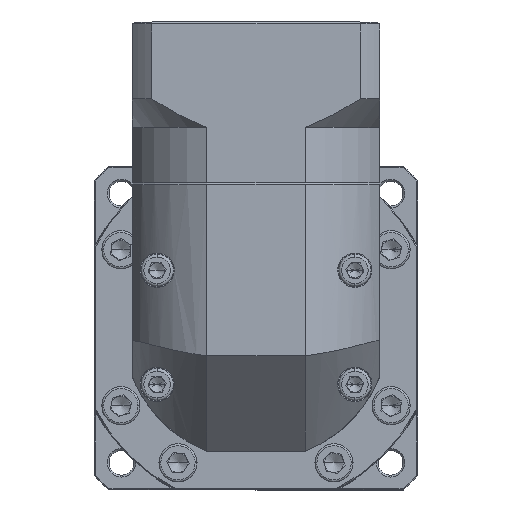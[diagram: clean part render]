
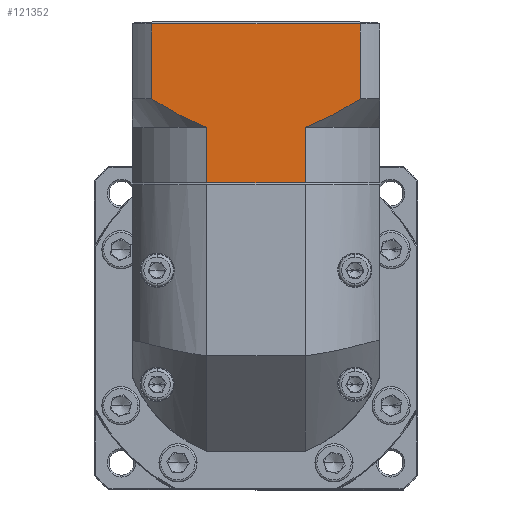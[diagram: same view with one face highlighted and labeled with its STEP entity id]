
A CAD part, top view. The second image highlights one B-rep face of the part: STEP entity #121352.
In plain terms, the highlighted planar face has unit normal (0, 0, 1).
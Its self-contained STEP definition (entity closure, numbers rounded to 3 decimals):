
#3983 = CARTESIAN_POINT ( 'NONE',  ( -115.004, 65.618, 56.544 ) ) ;
#5462 = LINE ( 'NONE', #15829, #87578 ) ;
#9438 = ORIENTED_EDGE ( 'NONE', *, *, #92922, .F. ) ;
#11928 = EDGE_CURVE ( 'NONE', #110308, #104652, #26504, .T. ) ;
#13367 = LINE ( 'NONE', #48152, #16506 ) ;
#13675 = DIRECTION ( 'NONE',  ( 0., 1., 0. ) ) ;
#15829 = CARTESIAN_POINT ( 'NONE',  ( -74.628, 58.118, 56.544 ) ) ;
#16354 = VECTOR ( 'NONE', #51262, 1000. ) ;
#16473 = VERTEX_POINT ( 'NONE', #113296 ) ;
#16506 = VECTOR ( 'NONE', #58943, 1000. ) ;
#17549 = EDGE_CURVE ( 'NONE', #57543, #120053, #13367, .T. ) ;
#18166 = CARTESIAN_POINT ( 'NONE',  ( -115.004, 65.618, 56.544 ) ) ;
#18597 = CARTESIAN_POINT ( 'NONE',  ( -68.395, 60.864, 56.544 ) ) ;
#19486 = CARTESIAN_POINT ( 'NONE',  ( -62.5, 64.156, 56.544 ) ) ;
#23026 = CARTESIAN_POINT ( 'NONE',  ( -100.609, 43.618, 56.544 ) ) ;
#26504 = LINE ( 'NONE', #112566, #71554 ) ;
#28233 = VERTEX_POINT ( 'NONE', #49145 ) ;
#28511 = CARTESIAN_POINT ( 'NONE',  ( -105.598, 60.204, 56.544 ) ) ;
#29421 = CARTESIAN_POINT ( 'NONE',  ( -74.628, 58.118, 56.544 ) ) ;
#31545 = DIRECTION ( 'NONE',  ( 0., 0., -1. ) ) ;
#33670 = VECTOR ( 'NONE', #47659, 1000. ) ;
#33989 = EDGE_CURVE ( 'NONE', #110308, #41602, #100042, .T. ) ;
#36707 = FACE_OUTER_BOUND ( 'NONE', #108462, .T. ) ;
#36850 = DIRECTION ( 'NONE',  ( 0., -1., 0. ) ) ;
#37328 = CARTESIAN_POINT ( 'NONE',  ( -120.118, 85.318, 56.544 ) ) ;
#37817 = EDGE_CURVE ( 'NONE', #69828, #16473, #56529, .T. ) ;
#39191 = CARTESIAN_POINT ( 'NONE',  ( -72.085, 59.134, 56.544 ) ) ;
#39608 = CARTESIAN_POINT ( 'NONE',  ( -112.715, 64.169, 56.544 ) ) ;
#41090 = ORIENTED_EDGE ( 'NONE', *, *, #84721, .T. ) ;
#41602 = VERTEX_POINT ( 'NONE', #110666 ) ;
#41842 = LINE ( 'NONE', #129652, #109496 ) ;
#46894 = DIRECTION ( 'NONE',  ( 0., -1., 0. ) ) ;
#47659 = DIRECTION ( 'NONE',  ( -1., 0., 0. ) ) ;
#48152 = CARTESIAN_POINT ( 'NONE',  ( -115.004, 58.118, 56.544 ) ) ;
#48453 = AXIS2_PLACEMENT_3D ( 'NONE', #92739, #31545, #91871 ) ;
#49145 = CARTESIAN_POINT ( 'NONE',  ( -60.232, 85.318, 56.544 ) ) ;
#51262 = DIRECTION ( 'NONE',  ( 1., 0., 0. ) ) ;
#52200 = PLANE ( 'NONE',  #48453 ) ;
#56529 = B_SPLINE_CURVE_WITH_KNOTS ( 'NONE', 3,
 ( #29421, #80241, #69461, #39191, #70794, #101323, #18597, #121482, #19486, #109841 ),
 .UNSPECIFIED., .F., .F.,
 ( 4, 2, 2, 2, 4 ),
 ( 0.101, 0.103, 0.105, 0.109, 0.117 ),
 .UNSPECIFIED. ) ;
#57543 = VERTEX_POINT ( 'NONE', #3983 ) ;
#58943 = DIRECTION ( 'NONE',  ( 0., 1., 0. ) ) ;
#59922 = CARTESIAN_POINT ( 'NONE',  ( -100.609, 58.118, 56.544 ) ) ;
#60797 = ORIENTED_EDGE ( 'NONE', *, *, #93405, .T. ) ;
#60986 = LINE ( 'NONE', #37328, #33670 ) ;
#61630 = CARTESIAN_POINT ( 'NONE',  ( -120.118, 43.618, 56.544 ) ) ;
#63273 = ORIENTED_EDGE ( 'NONE', *, *, #17549, .F. ) ;
#67987 = ORIENTED_EDGE ( 'NONE', *, *, #11928, .F. ) ;
#69461 = CARTESIAN_POINT ( 'NONE',  ( -73.347, 58.609, 56.544 ) ) ;
#69828 = VERTEX_POINT ( 'NONE', #92888 ) ;
#70794 = CARTESIAN_POINT ( 'NONE',  ( -71.461, 59.408, 56.544 ) ) ;
#71554 = VECTOR ( 'NONE', #13675, 1000. ) ;
#77277 = CARTESIAN_POINT ( 'NONE',  ( -100.609, 58.118, 56.544 ) ) ;
#80241 = CARTESIAN_POINT ( 'NONE',  ( -73.986, 58.356, 56.544 ) ) ;
#81551 = CARTESIAN_POINT ( 'NONE',  ( -109.194, 62.114, 56.544 ) ) ;
#84721 = EDGE_CURVE ( 'NONE', #57543, #104652, #117625, .T. ) ;
#87016 = EDGE_CURVE ( 'NONE', #69828, #41602, #5462, .T. ) ;
#87578 = VECTOR ( 'NONE', #36850, 1000. ) ;
#90107 = CARTESIAN_POINT ( 'NONE',  ( -110.38, 62.785, 56.544 ) ) ;
#91871 = DIRECTION ( 'NONE',  ( 0., 1., 0. ) ) ;
#92739 = CARTESIAN_POINT ( 'NONE',  ( -120.118, 85.818, 56.544 ) ) ;
#92888 = CARTESIAN_POINT ( 'NONE',  ( -74.628, 58.118, 56.544 ) ) ;
#92922 = EDGE_CURVE ( 'NONE', #28233, #16473, #41842, .T. ) ;
#93405 = EDGE_CURVE ( 'NONE', #28233, #120053, #60986, .T. ) ;
#95692 = ORIENTED_EDGE ( 'NONE', *, *, #87016, .F. ) ;
#100042 = LINE ( 'NONE', #61630, #16354 ) ;
#101323 = CARTESIAN_POINT ( 'NONE',  ( -69.607, 60.258, 56.544 ) ) ;
#102167 = CARTESIAN_POINT ( 'NONE',  ( -103.147, 59.06, 56.544 ) ) ;
#104652 = VERTEX_POINT ( 'NONE', #77277 ) ;
#107526 = CARTESIAN_POINT ( 'NONE',  ( -115.004, 85.318, 56.544 ) ) ;
#108462 = EDGE_LOOP ( 'NONE', ( #9438, #60797, #63273, #41090, #67987, #117193, #95692, #111068 ) ) ;
#109496 = VECTOR ( 'NONE', #46894, 1000. ) ;
#109841 = CARTESIAN_POINT ( 'NONE',  ( -60.232, 65.618, 56.544 ) ) ;
#110308 = VERTEX_POINT ( 'NONE', #23026 ) ;
#110666 = CARTESIAN_POINT ( 'NONE',  ( -74.628, 43.618, 56.544 ) ) ;
#111068 = ORIENTED_EDGE ( 'NONE', *, *, #37817, .T. ) ;
#112566 = CARTESIAN_POINT ( 'NONE',  ( -100.609, 58.118, 56.544 ) ) ;
#113296 = CARTESIAN_POINT ( 'NONE',  ( -60.232, 65.618, 56.544 ) ) ;
#117193 = ORIENTED_EDGE ( 'NONE', *, *, #33989, .T. ) ;
#117625 = B_SPLINE_CURVE_WITH_KNOTS ( 'NONE', 3,
 ( #18166, #121460, #39608, #90107, #81551, #28511, #102167, #59922 ),
 .UNSPECIFIED., .F., .F.,
 ( 4, 2, 2, 4 ),
 ( 0.058, 0.062, 0.066, 0.074 ),
 .UNSPECIFIED. ) ;
#120053 = VERTEX_POINT ( 'NONE', #107526 ) ;
#121352 = ADVANCED_FACE ( 'NONE', ( #36707 ), #52200, .F. ) ;
#121460 = CARTESIAN_POINT ( 'NONE',  ( -113.866, 64.884, 56.544 ) ) ;
#121482 = CARTESIAN_POINT ( 'NONE',  ( -64.814, 62.768, 56.544 ) ) ;
#129652 = CARTESIAN_POINT ( 'NONE',  ( -60.232, 58.118, 56.544 ) ) ;
